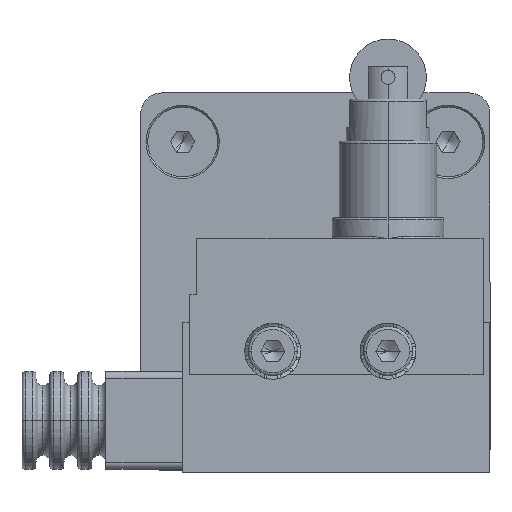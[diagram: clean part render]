
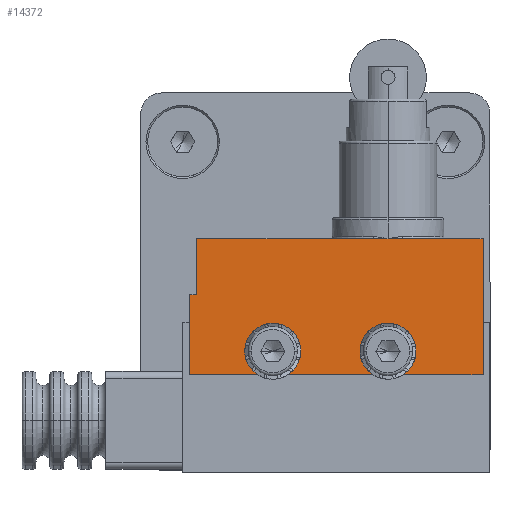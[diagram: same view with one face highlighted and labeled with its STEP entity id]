
A CAD part, top view. The second image highlights one B-rep face of the part: STEP entity #14372.
In plain terms, the highlighted planar face has unit normal (0, 0, 1).
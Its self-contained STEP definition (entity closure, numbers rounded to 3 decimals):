
#169 = DIRECTION ( 'NONE',  ( 1., 0., 0. ) ) ;
#221 = DIRECTION ( 'NONE',  ( 0., 0., 1. ) ) ;
#265 = CARTESIAN_POINT ( 'NONE',  ( -18., -1.9, 21. ) ) ;
#320 = FACE_OUTER_BOUND ( 'NONE', #12794, .T. ) ;
#434 = ORIENTED_EDGE ( 'NONE', *, *, #5109, .F. ) ;
#473 = CARTESIAN_POINT ( 'NONE',  ( 10.4, -10., 21. ) ) ;
#527 = CIRCLE ( 'NONE', #12372, 2.1 ) ;
#654 = EDGE_CURVE ( 'NONE', #14366, #10157, #1899, .T. ) ;
#765 = VERTEX_POINT ( 'NONE', #11684 ) ;
#925 = VECTOR ( 'NONE', #6205, 1000. ) ;
#1093 = VERTEX_POINT ( 'NONE', #1441 ) ;
#1291 = DIRECTION ( 'NONE',  ( 1., 0., 0. ) ) ;
#1343 = CIRCLE ( 'NONE', #5666, 2.1 ) ;
#1441 = CARTESIAN_POINT ( 'NONE',  ( 8.189, 6.1, 21. ) ) ;
#1459 = VECTOR ( 'NONE', #3601, 1000. ) ;
#1709 = EDGE_CURVE ( 'NONE', #14366, #4226, #4693, .T. ) ;
#1899 = LINE ( 'NONE', #13982, #1459 ) ;
#1962 = EDGE_CURVE ( 'NONE', #5407, #11598, #3261, .T. ) ;
#1979 = CARTESIAN_POINT ( 'NONE',  ( -17., 6.1, 21. ) ) ;
#2462 = AXIS2_PLACEMENT_3D ( 'NONE', #8063, #221, #169 ) ;
#2957 = DIRECTION ( 'NONE',  ( 0., 0., 1. ) ) ;
#3123 = CARTESIAN_POINT ( 'NONE',  ( 24., -13.4, 21. ) ) ;
#3261 = CIRCLE ( 'NONE', #2462, 2.1 ) ;
#3319 = CARTESIAN_POINT ( 'NONE',  ( 24., 6.1, 21. ) ) ;
#3601 = DIRECTION ( 'NONE',  ( 1., 0., 0. ) ) ;
#3799 = AXIS2_PLACEMENT_3D ( 'NONE', #16090, #2957, #6913 ) ;
#3831 = EDGE_CURVE ( 'NONE', #16220, #13514, #4437, .T. ) ;
#3908 = CARTESIAN_POINT ( 'NONE',  ( 25., -1.9, 21. ) ) ;
#3974 = EDGE_LOOP ( 'NONE', ( #15779, #14802 ) ) ;
#4127 = CARTESIAN_POINT ( 'NONE',  ( 10.4, 6.1, 21. ) ) ;
#4226 = VERTEX_POINT ( 'NONE', #265 ) ;
#4283 = CARTESIAN_POINT ( 'NONE',  ( 8.3, -10., 21. ) ) ;
#4394 = LINE ( 'NONE', #8803, #925 ) ;
#4437 = LINE ( 'NONE', #16441, #4849 ) ;
#4538 = ORIENTED_EDGE ( 'NONE', *, *, #5990, .F. ) ;
#4693 = LINE ( 'NONE', #13729, #7186 ) ;
#4709 = EDGE_CURVE ( 'NONE', #16844, #765, #1343, .T. ) ;
#4773 = DIRECTION ( 'NONE',  ( 0., 1., 0. ) ) ;
#4843 = DIRECTION ( 'NONE',  ( 0., 1., 0. ) ) ;
#4849 = VECTOR ( 'NONE', #8698, 1000. ) ;
#5109 = EDGE_CURVE ( 'NONE', #16444, #12065, #6882, .T. ) ;
#5143 = EDGE_LOOP ( 'NONE', ( #11937, #12790 ) ) ;
#5190 = CARTESIAN_POINT ( 'NONE',  ( 12.611, 6.1, 21. ) ) ;
#5337 = DIRECTION ( 'NONE',  ( 0., 0., 1. ) ) ;
#5407 = VERTEX_POINT ( 'NONE', #7078 ) ;
#5430 = FACE_BOUND ( 'NONE', #3974, .T. ) ;
#5500 = DIRECTION ( 'NONE',  ( 0., 0., 1. ) ) ;
#5523 = CARTESIAN_POINT ( 'NONE',  ( -18., -13.4, 21. ) ) ;
#5649 = ORIENTED_EDGE ( 'NONE', *, *, #8030, .F. ) ;
#5666 = AXIS2_PLACEMENT_3D ( 'NONE', #473, #5500, #13454 ) ;
#5678 = EDGE_CURVE ( 'NONE', #765, #16844, #527, .T. ) ;
#5692 = CARTESIAN_POINT ( 'NONE',  ( -4., -10., 21. ) ) ;
#5698 = DIRECTION ( 'NONE',  ( 1., 0., 0. ) ) ;
#5726 = CARTESIAN_POINT ( 'NONE',  ( 25., 6.1, 21. ) ) ;
#5869 = CARTESIAN_POINT ( 'NONE',  ( -17., -1.9, 21. ) ) ;
#5990 = EDGE_CURVE ( 'NONE', #12065, #1093, #10425, .T. ) ;
#6205 = DIRECTION ( 'NONE',  ( 0., -1., 0. ) ) ;
#6840 = AXIS2_PLACEMENT_3D ( 'NONE', #9155, #13087, #1291 ) ;
#6882 = LINE ( 'NONE', #8640, #9344 ) ;
#6913 = DIRECTION ( 'NONE',  ( 1., 0., 0. ) ) ;
#7078 = CARTESIAN_POINT ( 'NONE',  ( -8.2, -10., 21. ) ) ;
#7117 = DIRECTION ( 'NONE',  ( 1., 0., 0. ) ) ;
#7186 = VECTOR ( 'NONE', #4843, 1000. ) ;
#7251 = DIRECTION ( 'NONE',  ( 1., 0., 0. ) ) ;
#7276 = VECTOR ( 'NONE', #5698, 1000. ) ;
#8030 = EDGE_CURVE ( 'NONE', #16804, #16220, #12385, .T. ) ;
#8063 = CARTESIAN_POINT ( 'NONE',  ( -6.1, -10., 21. ) ) ;
#8323 = DIRECTION ( 'NONE',  ( 1., 0., 0. ) ) ;
#8407 = EDGE_CURVE ( 'NONE', #4226, #16444, #9325, .T. ) ;
#8640 = CARTESIAN_POINT ( 'NONE',  ( -17., 6.1, 21. ) ) ;
#8698 = DIRECTION ( 'NONE',  ( 1., 0., 0. ) ) ;
#8803 = CARTESIAN_POINT ( 'NONE',  ( 24., 6.1, 21. ) ) ;
#9155 = CARTESIAN_POINT ( 'NONE',  ( -6.1, -10., 21. ) ) ;
#9325 = LINE ( 'NONE', #3908, #11575 ) ;
#9344 = VECTOR ( 'NONE', #4773, 1000. ) ;
#9374 = PLANE ( 'NONE',  #3799 ) ;
#9637 = ORIENTED_EDGE ( 'NONE', *, *, #14488, .F. ) ;
#9805 = ORIENTED_EDGE ( 'NONE', *, *, #654, .T. ) ;
#9883 = EDGE_CURVE ( 'NONE', #11598, #5407, #16638, .T. ) ;
#10088 = ORIENTED_EDGE ( 'NONE', *, *, #1709, .F. ) ;
#10157 = VERTEX_POINT ( 'NONE', #3123 ) ;
#10425 = LINE ( 'NONE', #10902, #15280 ) ;
#10614 = ORIENTED_EDGE ( 'NONE', *, *, #8407, .F. ) ;
#10902 = CARTESIAN_POINT ( 'NONE',  ( 25., 6.1, 21. ) ) ;
#11375 = LINE ( 'NONE', #5726, #15228 ) ;
#11575 = VECTOR ( 'NONE', #15808, 1000. ) ;
#11598 = VERTEX_POINT ( 'NONE', #5692 ) ;
#11684 = CARTESIAN_POINT ( 'NONE',  ( 12.5, -10., 21. ) ) ;
#11937 = ORIENTED_EDGE ( 'NONE', *, *, #1962, .F. ) ;
#12065 = VERTEX_POINT ( 'NONE', #1979 ) ;
#12372 = AXIS2_PLACEMENT_3D ( 'NONE', #16857, #5337, #7251 ) ;
#12385 = LINE ( 'NONE', #13547, #7276 ) ;
#12790 = ORIENTED_EDGE ( 'NONE', *, *, #9883, .F. ) ;
#12794 = EDGE_LOOP ( 'NONE', ( #10088, #9805, #9637, #16407, #5649, #16814, #4538, #434, #10614 ) ) ;
#12800 = FACE_BOUND ( 'NONE', #5143, .T. ) ;
#13087 = DIRECTION ( 'NONE',  ( 0., 0., 1. ) ) ;
#13454 = DIRECTION ( 'NONE',  ( 1., 0., 0. ) ) ;
#13514 = VERTEX_POINT ( 'NONE', #3319 ) ;
#13547 = CARTESIAN_POINT ( 'NONE',  ( 25., 6.1, 21. ) ) ;
#13729 = CARTESIAN_POINT ( 'NONE',  ( -18., 6.1, 21. ) ) ;
#13982 = CARTESIAN_POINT ( 'NONE',  ( 24., -13.4, 21. ) ) ;
#14366 = VERTEX_POINT ( 'NONE', #5523 ) ;
#14372 = ADVANCED_FACE ( 'NONE', ( #12800, #5430, #320 ), #9374, .T. ) ;
#14488 = EDGE_CURVE ( 'NONE', #13514, #10157, #4394, .T. ) ;
#14802 = ORIENTED_EDGE ( 'NONE', *, *, #5678, .F. ) ;
#14850 = EDGE_CURVE ( 'NONE', #1093, #16804, #11375, .T. ) ;
#15228 = VECTOR ( 'NONE', #8323, 1000. ) ;
#15280 = VECTOR ( 'NONE', #7117, 1000. ) ;
#15779 = ORIENTED_EDGE ( 'NONE', *, *, #4709, .F. ) ;
#15808 = DIRECTION ( 'NONE',  ( 1., 0., 0. ) ) ;
#16090 = CARTESIAN_POINT ( 'NONE',  ( 25., 6.1, 21. ) ) ;
#16220 = VERTEX_POINT ( 'NONE', #5190 ) ;
#16407 = ORIENTED_EDGE ( 'NONE', *, *, #3831, .F. ) ;
#16441 = CARTESIAN_POINT ( 'NONE',  ( 25., 6.1, 21. ) ) ;
#16444 = VERTEX_POINT ( 'NONE', #5869 ) ;
#16638 = CIRCLE ( 'NONE', #6840, 2.1 ) ;
#16804 = VERTEX_POINT ( 'NONE', #4127 ) ;
#16814 = ORIENTED_EDGE ( 'NONE', *, *, #14850, .F. ) ;
#16844 = VERTEX_POINT ( 'NONE', #4283 ) ;
#16857 = CARTESIAN_POINT ( 'NONE',  ( 10.4, -10., 21. ) ) ;
